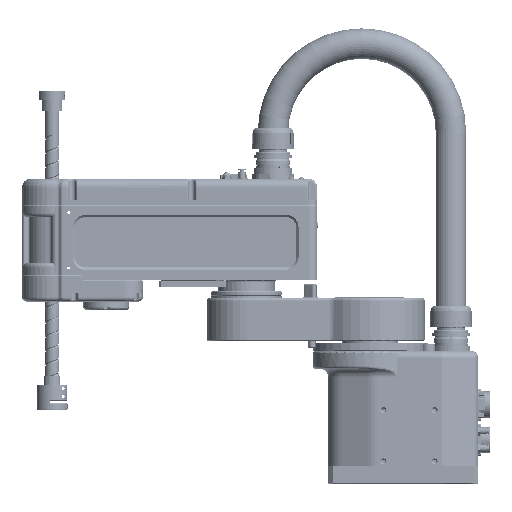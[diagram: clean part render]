
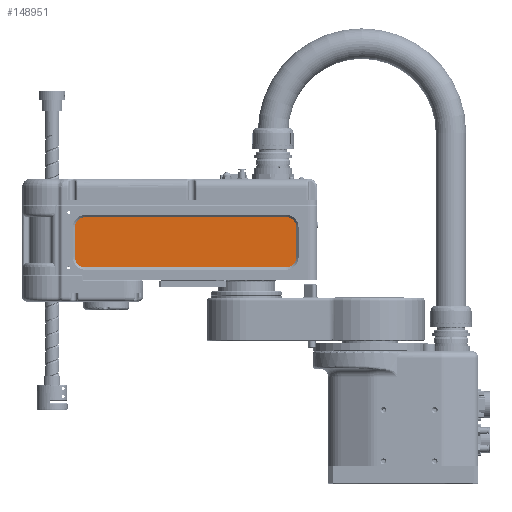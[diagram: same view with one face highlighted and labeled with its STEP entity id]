
A CAD part, top view. The second image highlights one B-rep face of the part: STEP entity #148951.
In plain terms, the highlighted planar face has unit normal (0, 0, 1).
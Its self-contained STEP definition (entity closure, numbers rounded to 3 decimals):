
#2356 = CIRCLE ( 'NONE', #30164, 11.5 ) ;
#9684 = VECTOR ( 'NONE', #54795, 1000. ) ;
#10582 = EDGE_LOOP ( 'NONE', ( #145422, #185156, #55334, #126698, #152659, #134360, #118106, #103848 ) ) ;
#11739 = CARTESIAN_POINT ( 'NONE',  ( 119.505, -176.012, 34.5 ) ) ;
#12848 = EDGE_CURVE ( 'NONE', #40467, #89603, #109237, .T. ) ;
#17436 = EDGE_CURVE ( 'NONE', #214236, #37161, #201367, .T. ) ;
#18048 = VERTEX_POINT ( 'NONE', #118494 ) ;
#30164 = AXIS2_PLACEMENT_3D ( 'NONE', #183403, #165406, #79489 ) ;
#33695 = DIRECTION ( 'NONE',  ( 0.009, -1., 0. ) ) ;
#35654 = CARTESIAN_POINT ( 'NONE',  ( -130.925, -178.361, 34.5 ) ) ;
#36722 = PLANE ( 'NONE',  #122676 ) ;
#37161 = VERTEX_POINT ( 'NONE', #191276 ) ;
#40467 = VERTEX_POINT ( 'NONE', #11739 ) ;
#41253 = DIRECTION ( 'NONE',  ( 0.009, -1., 0. ) ) ;
#46187 = CARTESIAN_POINT ( 'NONE',  ( -131.244, -144.363, 34.5 ) ) ;
#47632 = FACE_OUTER_BOUND ( 'NONE', #10582, .T. ) ;
#54734 = DIRECTION ( 'NONE',  ( -1., -0.009, 0. ) ) ;
#54795 = DIRECTION ( 'NONE',  ( -0.009, 1., 0. ) ) ;
#55334 = ORIENTED_EDGE ( 'NONE', *, *, #68418, .T. ) ;
#56676 = CIRCLE ( 'NONE', #194306, 11.5 ) ;
#57655 = CIRCLE ( 'NONE', #191701, 11.5 ) ;
#57795 = CARTESIAN_POINT ( 'NONE',  ( 119.187, -142.014, 34.5 ) ) ;
#60939 = CARTESIAN_POINT ( 'NONE',  ( -119.852, -132.755, 34.5 ) ) ;
#64592 = CARTESIAN_POINT ( 'NONE',  ( 108.006, -176.12, 34.5 ) ) ;
#68418 = EDGE_CURVE ( 'NONE', #125813, #111368, #56676, .T. ) ;
#70078 = CARTESIAN_POINT ( 'NONE',  ( -119.317, -189.753, 34.5 ) ) ;
#79489 = DIRECTION ( 'NONE',  ( -1., -0.009, 0. ) ) ;
#87107 = CARTESIAN_POINT ( 'NONE',  ( 108.006, -176.12, 34.5 ) ) ;
#89603 = VERTEX_POINT ( 'NONE', #57795 ) ;
#90648 = DIRECTION ( 'NONE',  ( 0., 0., 1. ) ) ;
#94271 = EDGE_CURVE ( 'NONE', #18048, #125813, #149760, .T. ) ;
#95544 = DIRECTION ( 'NONE',  ( -1., -0.009, 0. ) ) ;
#96180 = EDGE_CURVE ( 'NONE', #89603, #214236, #218174, .T. ) ;
#103848 = ORIENTED_EDGE ( 'NONE', *, *, #17436, .T. ) ;
#105103 = DIRECTION ( 'NONE',  ( 0., 0., 1. ) ) ;
#108182 = CARTESIAN_POINT ( 'NONE',  ( 119.187, -142.014, 34.5 ) ) ;
#109237 = LINE ( 'NONE', #108182, #9684 ) ;
#109439 = DIRECTION ( 'NONE',  ( -1., -0.009, 0. ) ) ;
#111027 = AXIS2_PLACEMENT_3D ( 'NONE', #179092, #162612, #41253 ) ;
#111368 = VERTEX_POINT ( 'NONE', #70078 ) ;
#115315 = VERTEX_POINT ( 'NONE', #164259 ) ;
#118106 = ORIENTED_EDGE ( 'NONE', *, *, #96180, .T. ) ;
#118494 = CARTESIAN_POINT ( 'NONE',  ( -131.244, -144.363, 34.5 ) ) ;
#122676 = AXIS2_PLACEMENT_3D ( 'NONE', #87107, #206110, #54734 ) ;
#125813 = VERTEX_POINT ( 'NONE', #35654 ) ;
#126698 = ORIENTED_EDGE ( 'NONE', *, *, #194221, .T. ) ;
#134360 = ORIENTED_EDGE ( 'NONE', *, *, #12848, .T. ) ;
#145422 = ORIENTED_EDGE ( 'NONE', *, *, #223303, .T. ) ;
#148951 = ADVANCED_FACE ( 'NONE', ( #47632 ), #36722, .T. ) ;
#149760 = LINE ( 'NONE', #46187, #163224 ) ;
#151775 = LINE ( 'NONE', #165242, #213669 ) ;
#152659 = ORIENTED_EDGE ( 'NONE', *, *, #217438, .T. ) ;
#153597 = CARTESIAN_POINT ( 'NONE',  ( 107.579, -130.622, 34.5 ) ) ;
#162612 = DIRECTION ( 'NONE',  ( 0., 0., 1. ) ) ;
#163224 = VECTOR ( 'NONE', #184066, 1000. ) ;
#164259 = CARTESIAN_POINT ( 'NONE',  ( 108.114, -187.619, 34.5 ) ) ;
#165242 = CARTESIAN_POINT ( 'NONE',  ( -119.317, -189.753, 34.5 ) ) ;
#165406 = DIRECTION ( 'NONE',  ( 0., 0., 1. ) ) ;
#179092 = CARTESIAN_POINT ( 'NONE',  ( 107.687, -142.121, 34.5 ) ) ;
#183403 = CARTESIAN_POINT ( 'NONE',  ( -119.744, -144.255, 34.5 ) ) ;
#184066 = DIRECTION ( 'NONE',  ( 0.009, -1., 0. ) ) ;
#185156 = ORIENTED_EDGE ( 'NONE', *, *, #94271, .T. ) ;
#191276 = CARTESIAN_POINT ( 'NONE',  ( -119.852, -132.755, 34.5 ) ) ;
#191701 = AXIS2_PLACEMENT_3D ( 'NONE', #64592, #105103, #33695 ) ;
#194221 = EDGE_CURVE ( 'NONE', #111368, #115315, #151775, .T. ) ;
#194306 = AXIS2_PLACEMENT_3D ( 'NONE', #195287, #90648, #109439 ) ;
#195287 = CARTESIAN_POINT ( 'NONE',  ( -119.425, -178.253, 34.5 ) ) ;
#198268 = DIRECTION ( 'NONE',  ( 1., 0.009, 0. ) ) ;
#201367 = LINE ( 'NONE', #60939, #209590 ) ;
#206110 = DIRECTION ( 'NONE',  ( 0., 0., 1. ) ) ;
#209590 = VECTOR ( 'NONE', #95544, 1000. ) ;
#213669 = VECTOR ( 'NONE', #198268, 1000. ) ;
#214236 = VERTEX_POINT ( 'NONE', #153597 ) ;
#217438 = EDGE_CURVE ( 'NONE', #115315, #40467, #57655, .T. ) ;
#218174 = CIRCLE ( 'NONE', #111027, 11.5 ) ;
#223303 = EDGE_CURVE ( 'NONE', #37161, #18048, #2356, .T. ) ;
